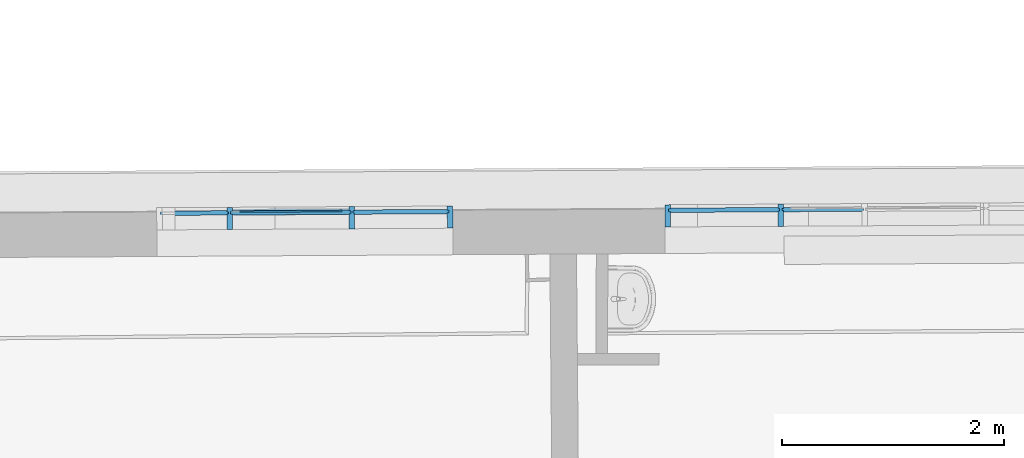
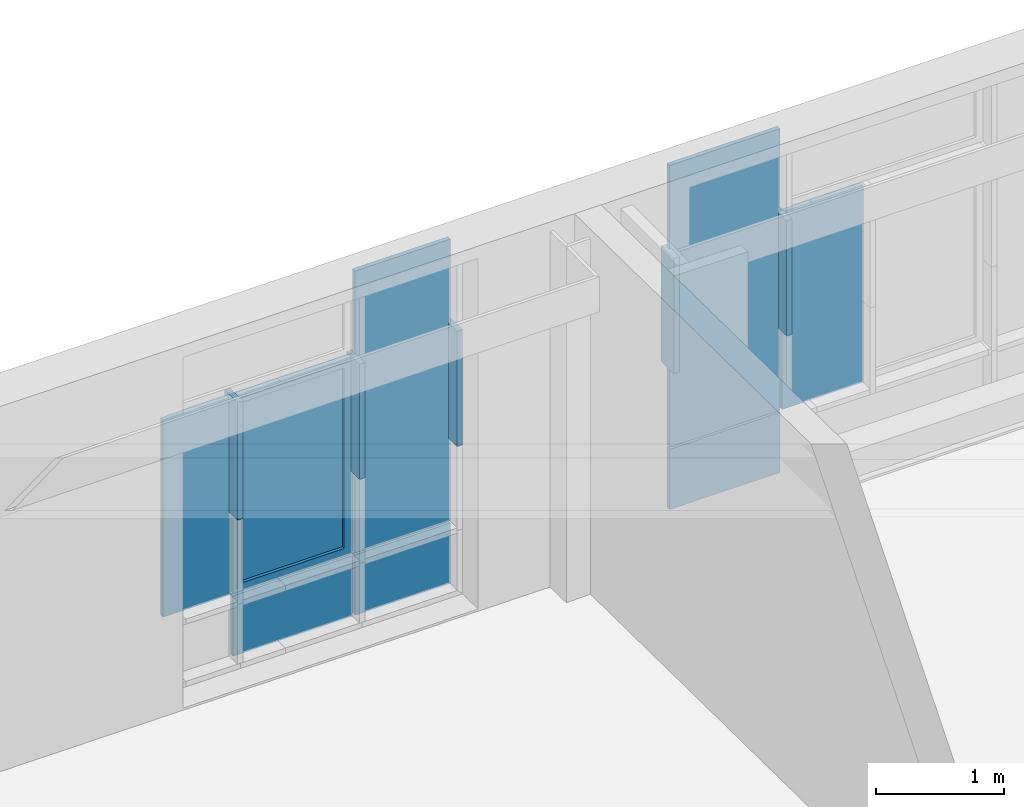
# One storey, part 102 of 158: 14 building element parts, 2 elements without a shape of their own.
"""IFC2X3 building model written with IfcOpenShell, lengths in metres."""

from ifc_helpers import new_model, entity, si_unit, converted_unit, derived_unit, money_unit, direction, frame, origin_with_axes, place, context, subcontext, project, spatial, faceted_brep, material, type_object, element, aggregate, save


model = new_model("IFC2X3")

# Units and contexts
model_context = context("Model", 3, precision=1e-05, world=origin_with_axes(), true_north=direction((0.0, 1.0)))
body_context = subcontext(model_context, "Body", "Model", "MODEL_VIEW")
ifc_project = project(units=[si_unit("LENGTHUNIT", "METRE"), si_unit("AREAUNIT", "SQUARE_METRE"), si_unit("VOLUMEUNIT", "CUBIC_METRE"), converted_unit("PLANEANGLEUNIT", "DEGREE", entity("IfcPlaneAngleMeasure", 0.0174532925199), si_unit("PLANEANGLEUNIT", "RADIAN"), dimensions=[0, 0, 0, 0, 0, 0, 0]), money_unit("EUR"), converted_unit("TIMEUNIT", "Year", entity("IfcTimeMeasure", 31556926.0), si_unit("TIMEUNIT", "SECOND"), dimensions=[0, 0, 1, 0, 0, 0, 0]), si_unit("MASSUNIT", "GRAM", prefix="KILO"), si_unit("THERMODYNAMICTEMPERATUREUNIT", "DEGREE_CELSIUS"), si_unit("LUMINOUSINTENSITYUNIT", "LUMEN"), si_unit("ENERGYUNIT", "JOULE", prefix="MEGA"), derived_unit("THERMALCONDUCTANCEUNIT", [(si_unit("POWERUNIT", "WATT"), 1), (si_unit("LENGTHUNIT", "METRE"), -1), (si_unit("THERMODYNAMICTEMPERATUREUNIT", "KELVIN"), -1)]), derived_unit("SPECIFICHEATCAPACITYUNIT", [(si_unit("ENERGYUNIT", "JOULE"), 1), (si_unit("MASSUNIT", "GRAM", prefix="KILO"), -1), (si_unit("THERMODYNAMICTEMPERATUREUNIT", "KELVIN"), -1)]), derived_unit("MASSDENSITYUNIT", [(si_unit("MASSUNIT", "GRAM", prefix="KILO"), 1), (si_unit("VOLUMEUNIT", "CUBIC_METRE"), -1)])], contexts=[model_context])

# Site, building, storey
site_placement = place(None, origin_with_axes())
site = spatial("IfcSite", under=ifc_project, at=site_placement, Name="Gelände", CompositionType="ELEMENT")
building_placement = place(site_placement, origin_with_axes())
building = spatial("IfcBuilding", under=site, at=building_placement, Name="Gebäude", CompositionType="ELEMENT")
storey_placement = place(building_placement, origin_with_axes())
storey = spatial("IfcBuildingStorey", under=building, at=storey_placement, Name="ERDGESCHOSS", CompositionType="ELEMENT", Elevation=0.0)

# Proxy, building element parts
building_element_proxy_type = type_object("IfcBuildingElementProxyType", Name="Fassadentyp", PredefinedType="NOTDEFINED")
proxy_1_placement = place(storey_placement, frame((-22.8016333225, 53.9701805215, 1.34043904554), z_axis=(0.0, 0.0, 1.0), x_axis=(1.0, 0.0, 0.0)))
proxy_1 = element("IfcBuildingElementProxy", 1, at=proxy_1_placement, inside=storey, type_object=building_element_proxy_type, Name="Fassade-002")
ifc_material_1 = material(Name="45_Glas, Normalglas")
building_element_part_1_placement = place(proxy_1_placement, origin_with_axes())
building_element_part_1 = element("IfcBuildingElementPart", 2, at=building_element_part_1_placement, material=ifc_material_1, Name="45_Glas, Normalglas", context=body_context, shape_type="Brep", body=[
    faceted_brep([(-3.15476168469, -0.038397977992, 3.31499989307), (-2.89491090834, -0.0368826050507, 3.31499989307), (-2.89514417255, 0.00311671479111, 3.31499989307), (-3.15499494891, 0.00160134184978, 3.31499989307), (-3.15476168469, -0.038397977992, 2.5200000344), (-3.15476168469, -0.038397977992, 1.41999999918), (-3.15476168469, -0.038397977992, 0.630000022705), (-2.89491090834, -0.0368826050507, 0.630000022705), (-2.1552765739, -0.0325692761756, 0.630000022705), (-2.1552765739, -0.0325692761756, 1.41999999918), (-2.1552765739, -0.0325692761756, 2.5200000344), (-2.1552765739, -0.0325692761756, 3.31499989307), (-2.15550983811, 0.00743004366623, 3.31499989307), (-2.15550983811, 0.00743004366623, 2.5200000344), (-2.15550983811, 0.00743004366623, 1.41999999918), (-2.15550983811, 0.00743004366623, 0.630000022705), (-2.89514417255, 0.00311671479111, 0.630000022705), (-3.15499494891, 0.00160134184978, 0.630000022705), (-3.15499494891, 0.00160134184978, 1.41999999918), (-3.15499494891, 0.00160134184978, 2.5200000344)], [[[0, 1, 2, 3]], [[0, 4, 5, 6, 7, 8, 9, 10, 11, 1]], [[1, 11, 12, 2]], [[3, 2, 12, 13, 14, 15, 16, 17, 18, 19]], [[4, 0, 3, 19]], [[5, 4, 19, 18]], [[6, 5, 18, 17]], [[7, 6, 17, 16]], [[8, 7, 16, 15]], [[9, 8, 15, 14]], [[10, 9, 14, 13]], [[11, 10, 13, 12]]]),
])
building_element_part_2_placement = place(proxy_1_placement, origin_with_axes())
building_element_part_2 = element("IfcBuildingElementPart", 3, at=building_element_part_2_placement, material=ifc_material_1, Name="45_Glas, Normalglas", context=body_context, shape_type="Brep", body=[
    faceted_brep([(-2.13527692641, -0.0324526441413, 2.51000002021), (-1.89492793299, -0.0310509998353, 2.51000002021), (-1.8951611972, 0.00894832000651, 2.51000002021), (-2.13551019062, 0.00754667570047, 2.51000002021), (-2.1352768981, -0.0324526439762, 1.42000001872), (-2.1352768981, -0.0324526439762, 0.630000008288), (-1.89492793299, -0.0310509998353, 0.630000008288), (-1.39989799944, -0.0281641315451, 0.630000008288), (-1.39989797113, -0.02816413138, 1.42000001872), (-1.39989797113, -0.02816413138, 2.51000002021), (-1.40013123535, 0.0118351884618, 2.51000002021), (-1.40013123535, 0.0118351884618, 1.42000001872), (-1.40013126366, 0.0118351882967, 0.630000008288), (-1.8951611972, 0.00894832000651, 0.630000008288), (-2.13551016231, 0.00754667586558, 0.630000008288), (-2.13551016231, 0.00754667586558, 1.42000001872)], [[[0, 1, 2, 3]], [[0, 4, 5, 6, 7, 8, 9, 1]], [[1, 9, 10, 2]], [[3, 2, 10, 11, 12, 13, 14, 15]], [[4, 0, 3, 15]], [[5, 4, 15, 14]], [[6, 5, 14, 13]], [[7, 6, 13, 12]], [[8, 7, 12, 11]], [[9, 8, 11, 10]]]),
])
building_element_part_3_placement = place(proxy_1_placement, origin_with_axes())
building_element_part_3 = element("IfcBuildingElementPart", 4, at=building_element_part_3_placement, material=ifc_material_1, Name="45_Glas, Normalglas", context=body_context, shape_type="Brep", body=[
    faceted_brep([(-3.15476167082, -0.0383979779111, 0.610000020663), (-2.89491092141, -0.0368826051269, 0.610000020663), (-2.89514418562, 0.00311671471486, 0.610000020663), (-3.15499493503, 0.00160134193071, 0.610000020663), (-3.15476167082, -0.0383979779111, 0.0349999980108), (-2.89491092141, -0.0368826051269, 0.0349999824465), (-2.15527657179, -0.0325692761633, 0.0349999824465), (-2.15527657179, -0.0325692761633, 0.610000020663), (-2.155509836, 0.00743004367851, 0.610000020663), (-2.155509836, 0.00743004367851, 0.0349999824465), (-2.89514418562, 0.00311671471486, 0.0349999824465), (-3.15499493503, 0.00160134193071, 0.0349999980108)], [[[0, 1, 2, 3]], [[0, 4, 5, 6, 7, 1]], [[1, 7, 8, 2]], [[3, 2, 8, 9, 10, 11]], [[4, 0, 3, 11]], [[5, 4, 11, 10]], [[6, 5, 10, 9]], [[7, 6, 9, 8]]]),
])
ifc_material_2 = material(Name="53_Metall, Aluminium")
building_element_part_4_placement = place(proxy_1_placement, origin_with_axes())
building_element_part_4 = element("IfcBuildingElementPart", 5, at=building_element_part_4_placement, material=ifc_material_2, Name="53_Metall, Aluminium", context=body_context, shape_type="Brep", body=[
    faceted_brep([(-3.15481999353, -0.0283981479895, 2.52000001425), (-3.15493662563, -0.00839848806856, 2.52000001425), (-3.13993688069, -0.00831101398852, 2.52000001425), (-3.14017014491, 0.0316883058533, 2.52000001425), (-3.19016929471, 0.0313967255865, 2.52000001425), (-3.18900297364, -0.168599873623, 2.52000001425), (-3.13900382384, -0.168308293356, 2.52000001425), (-3.13982024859, -0.0283106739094, 2.52000001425), (-3.15481999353, -0.0283981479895, 1.42000001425), (-3.15493662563, -0.00839848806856, 1.42000001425), (-3.13993688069, -0.00831101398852, 1.42000001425), (-3.14017014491, 0.0316883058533, 1.42000001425), (-3.19016929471, 0.0313967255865, 1.42000001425), (-3.18900297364, -0.168599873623, 1.42000001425), (-3.13900382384, -0.168308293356, 1.42000001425), (-3.13982024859, -0.0283106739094, 1.42000001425)], [[[0, 1, 2, 3, 4, 5, 6, 7]], [[1, 0, 8, 9]], [[10, 2, 1, 9]], [[2, 10, 11, 3]], [[12, 4, 3, 11]], [[13, 5, 4, 12]], [[14, 6, 5, 13]], [[15, 7, 6, 14]], [[0, 7, 15, 8]], [[8, 15, 14, 13, 12, 11, 10, 9]]]),
])
building_element_part_5_placement = place(proxy_1_placement, origin_with_axes())
building_element_part_5 = element("IfcBuildingElementPart", 6, at=building_element_part_5_placement, material=ifc_material_2, Name="53_Metall, Aluminium", context=body_context, shape_type="Brep", body=[
    faceted_brep([(-2.1553348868, -0.0225694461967, 2.52000001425), (-2.17033463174, -0.0226569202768, 2.52000001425), (-2.16951820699, -0.162654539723, 2.52000001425), (-2.11951905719, -0.162362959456, 2.52000001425), (-2.12033548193, -0.02236534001, 2.52000001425), (-2.13533522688, -0.02245281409, 2.52000001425), (-2.13545185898, -0.00245315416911, 2.52000001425), (-2.12045211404, -0.00236568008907, 2.52000001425), (-2.12068537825, 0.0376336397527, 2.52000001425), (-2.17068452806, 0.0373420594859, 2.52000001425), (-2.17045126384, -0.00265726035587, 2.52000001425), (-2.1554515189, -0.00256978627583, 2.52000001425), (-2.1553348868, -0.0225694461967, 1.42000001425), (-2.17033463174, -0.0226569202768, 1.42000001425), (-2.16951820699, -0.162654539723, 1.42000001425), (-2.11951905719, -0.162362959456, 1.42000001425), (-2.12033548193, -0.02236534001, 1.42000001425), (-2.13533522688, -0.02245281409, 1.42000001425), (-2.13545185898, -0.00245315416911, 1.42000001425), (-2.12045211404, -0.00236568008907, 1.42000001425), (-2.12068537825, 0.0376336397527, 1.42000001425), (-2.17068452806, 0.0373420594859, 1.42000001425), (-2.17045126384, -0.00265726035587, 1.42000001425), (-2.1554515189, -0.00256978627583, 1.42000001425)], [[[0, 1, 2, 3, 4, 5, 6, 7, 8, 9, 10, 11]], [[1, 0, 12, 13]], [[1, 13, 14, 2]], [[3, 2, 14, 15]], [[4, 3, 15, 16]], [[4, 16, 17, 5]], [[5, 17, 18, 6]], [[7, 6, 18, 19]], [[19, 20, 8, 7]], [[9, 8, 20, 21]], [[22, 10, 9, 21]], [[11, 10, 22, 23]], [[0, 11, 23, 12]], [[23, 22, 21, 20, 19, 18, 17, 16, 15, 14, 13, 12]]]),
])
aggregate(proxy_1, [building_element_part_1, building_element_part_2, building_element_part_3, building_element_part_4, building_element_part_5])

proxy_2_placement = place(storey_placement, frame((-29.8344261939, 53.9291673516, 1.34043902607), z_axis=(0.0, 0.0, 1.0), x_axis=(1.0, 0.0, 0.0)))
proxy_2 = element("IfcBuildingElementProxy", 7, at=proxy_2_placement, inside=storey, type_object=building_element_proxy_type, Name="Fassade-002")
building_element_part_6_placement = place(proxy_2_placement, origin_with_axes())
building_element_part_6 = element("IfcBuildingElementPart", 8, at=building_element_part_6_placement, material=ifc_material_1, Name="45_Glas, Normalglas", context=body_context, shape_type="Brep", body=[
    faceted_brep([(1.03187040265, -0.0139827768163, 0.610000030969), (1.89615868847, -0.00894250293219, 0.610000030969), (1.89592542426, 0.0310568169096, 0.610000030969), (1.03163713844, 0.0260165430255, 0.610000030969), (1.03187040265, -0.0139827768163, 0.0349999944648), (1.89615868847, -0.00894250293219, 0.0349999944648), (1.89592542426, 0.0310568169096, 0.0349999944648), (1.03163713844, 0.0260165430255, 0.0349999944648)], [[[0, 1, 2, 3]], [[0, 4, 5, 1]], [[1, 5, 6, 2]], [[3, 2, 6, 7]], [[4, 0, 3, 7]], [[5, 4, 7, 6]]]),
])
building_element_part_7_placement = place(proxy_2_placement, origin_with_axes())
building_element_part_7 = element("IfcBuildingElementPart", 9, at=building_element_part_7_placement, material=ifc_material_1, Name="45_Glas, Normalglas", context=body_context, shape_type="Brep", body=[
    faceted_brep([(1.03187039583, -0.013982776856, 3.31499995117), (1.89615869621, -0.00894250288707, 3.31499995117), (1.89592543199, 0.0310568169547, 3.31499995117), (1.03163713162, 0.0260165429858, 3.31499995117), (1.03187039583, -0.013982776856, 2.52000004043), (1.03187039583, -0.013982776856, 1.42000003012), (1.03187039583, -0.013982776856, 0.630000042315), (1.89615869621, -0.00894250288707, 0.630000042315), (1.89615869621, -0.00894250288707, 1.42000003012), (1.89615869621, -0.00894250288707, 2.52000004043), (1.89592543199, 0.0310568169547, 2.52000004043), (1.89592543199, 0.0310568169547, 1.42000003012), (1.89592543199, 0.0310568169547, 0.630000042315), (1.03163713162, 0.0260165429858, 0.630000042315), (1.03163713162, 0.0260165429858, 1.42000003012), (1.03163713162, 0.0260165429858, 2.52000004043)], [[[0, 1, 2, 3]], [[0, 4, 5, 6, 7, 8, 9, 1]], [[1, 9, 10, 2]], [[3, 2, 10, 11, 12, 13, 14, 15]], [[4, 0, 3, 15]], [[5, 4, 15, 14]], [[6, 5, 14, 13]], [[7, 6, 13, 12]], [[8, 7, 12, 11]], [[9, 8, 11, 10]]]),
])
building_element_part_8_placement = place(proxy_2_placement, origin_with_axes())
building_element_part_8 = element("IfcBuildingElementPart", 10, at=building_element_part_8_placement, material=ifc_material_1, Name="45_Glas, Normalglas", context=body_context, shape_type="Brep", body=[
    faceted_brep([(-0.702538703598, -0.0240973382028, 2.51000003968), (-0.571863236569, -0.0233352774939, 2.51000003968), (-0.572096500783, 0.0166640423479, 2.51000003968), (-0.702771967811, 0.015901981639, 2.51000003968), (-0.702538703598, -0.0240973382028, 1.42000003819), (-0.702538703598, -0.0240973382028, 0.630000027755), (-0.571863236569, -0.0233352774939, 0.630000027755), (-0.0901315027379, -0.0205259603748, 0.630000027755), (-0.0901315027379, -0.0205259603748, 1.42000003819), (-0.0901315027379, -0.0205259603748, 2.51000003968), (-0.0903647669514, 0.019473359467, 2.51000003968), (-0.0903647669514, 0.019473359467, 1.42000003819), (-0.0903647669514, 0.019473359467, 0.630000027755), (-0.572096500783, 0.0166640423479, 0.630000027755), (-0.702771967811, 0.015901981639, 0.630000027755), (-0.702771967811, 0.015901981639, 1.42000003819)], [[[0, 1, 2, 3]], [[0, 4, 5, 6, 7, 8, 9, 1]], [[1, 9, 10, 2]], [[3, 2, 10, 11, 12, 13, 14, 15]], [[4, 0, 3, 15]], [[5, 4, 15, 14]], [[6, 5, 14, 13]], [[7, 6, 13, 12]], [[8, 7, 12, 11]], [[9, 8, 11, 10]]]),
])
building_element_part_9_placement = place(proxy_2_placement, origin_with_axes())
building_element_part_9 = element("IfcBuildingElementPart", 11, at=building_element_part_9_placement, material=ifc_material_1, Name="45_Glas, Normalglas", context=body_context, shape_type="Brep", body=[
    faceted_brep([(-0.0701318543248, -0.0204093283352, 0.610000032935), (0.328121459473, -0.0180868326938, 0.610000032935), (0.32788819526, 0.0219124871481, 0.610000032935), (-0.0703651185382, 0.0195899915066, 0.610000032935), (-0.0701318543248, -0.0204093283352, 0.0349999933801), (0.328121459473, -0.0180868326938, 0.0349999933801), (1.01187073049, -0.0140994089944, 0.0349999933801), (1.01187074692, -0.0140994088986, 0.610000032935), (1.0116374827, 0.0258999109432, 0.610000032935), (1.01163746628, 0.0258999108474, 0.0349999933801), (0.32788819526, 0.0219124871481, 0.0349999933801), (-0.0703651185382, 0.0195899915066, 0.0349999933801)], [[[0, 1, 2, 3]], [[0, 4, 5, 6, 7, 1]], [[1, 7, 8, 2]], [[3, 2, 8, 9, 10, 11]], [[4, 0, 3, 11]], [[5, 4, 11, 10]], [[6, 5, 10, 9]], [[7, 6, 9, 8]]]),
])
building_element_part_10_placement = place(proxy_2_placement, origin_with_axes())
building_element_part_10 = element("IfcBuildingElementPart", 12, at=building_element_part_10_placement, material=ifc_material_2, Name="53_Metall, Aluminium", context=body_context, shape_type="Brep", body=[
    faceted_brep([(0.996579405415, 0.0358122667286, 0.645000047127), (-0.0554236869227, 0.029677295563, 0.645000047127), (-0.0554528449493, 0.0346772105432, 0.645000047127), (0.996550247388, 0.0408121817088, 0.645000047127), (0.951580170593, 0.0355498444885, 0.690000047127), (-0.0104244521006, 0.0299397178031, 0.690000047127), (-0.0104536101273, 0.0349396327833, 0.690000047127), (0.951551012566, 0.0405497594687, 0.690000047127)], [[[0, 1, 2, 3]], [[0, 4, 5, 1]], [[1, 5, 6, 2]], [[3, 2, 6, 7]], [[4, 0, 3, 7]], [[5, 4, 7, 6]]]),
    faceted_brep([(-0.0554236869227, 0.029677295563, 0.645000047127), (-0.0554236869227, 0.029677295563, 2.4950000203), (-0.0554528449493, 0.0346772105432, 2.4950000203), (-0.0554528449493, 0.0346772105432, 0.645000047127), (-0.0104244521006, 0.0299397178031, 0.690000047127), (-0.0104244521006, 0.0299397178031, 2.4500000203), (-0.0104536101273, 0.0349396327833, 2.4500000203), (-0.0104536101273, 0.0349396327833, 0.690000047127)], [[[0, 1, 2, 3]], [[0, 4, 5, 1]], [[1, 5, 6, 2]], [[3, 2, 6, 7]], [[4, 0, 3, 7]], [[5, 4, 7, 6]]]),
    faceted_brep([(0.996579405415, 0.0358122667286, 2.4950000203), (0.951580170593, 0.0355498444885, 2.4500000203), (0.951551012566, 0.0405497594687, 2.4500000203), (0.996550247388, 0.0408121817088, 2.4950000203), (-0.0554236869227, 0.029677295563, 2.4950000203), (-0.0104244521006, 0.0299397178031, 2.4500000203), (-0.0104536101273, 0.0349396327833, 2.4500000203), (-0.0554528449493, 0.0346772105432, 2.4950000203)], [[[0, 1, 2, 3]], [[0, 4, 5, 1]], [[1, 5, 6, 2]], [[3, 2, 6, 7]], [[4, 0, 3, 7]], [[5, 4, 7, 6]]]),
    faceted_brep([(0.996579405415, 0.0358122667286, 0.645000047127), (0.951580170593, 0.0355498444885, 0.690000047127), (0.951551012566, 0.0405497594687, 0.690000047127), (0.996550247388, 0.0408121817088, 0.645000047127), (0.996579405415, 0.0358122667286, 2.4950000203), (0.951580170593, 0.0355498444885, 2.4500000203), (0.951551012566, 0.0405497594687, 2.4500000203), (0.996550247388, 0.0408121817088, 2.4950000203)], [[[0, 1, 2, 3]], [[0, 4, 5, 1]], [[1, 5, 6, 2]], [[3, 2, 6, 7]], [[4, 0, 3, 7]], [[5, 4, 7, 6]]]),
    faceted_brep([(0.996870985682, -0.0141868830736, 0.645000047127), (-0.0551321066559, -0.0203218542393, 0.645000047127), (-0.0554236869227, 0.029677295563, 0.645000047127), (0.996579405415, 0.0358122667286, 0.645000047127), (0.976871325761, -0.0143035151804, 0.665000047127), (-0.035132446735, -0.0202052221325, 0.665000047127), (-0.0354240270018, 0.0297939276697, 0.665000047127), (0.976579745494, 0.0356956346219, 0.665000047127)], [[[0, 1, 2, 3]], [[0, 4, 5, 1]], [[1, 5, 6, 2]], [[3, 2, 6, 7]], [[4, 0, 3, 7]], [[5, 4, 7, 6]]]),
    faceted_brep([(-0.0551321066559, -0.0203218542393, 0.645000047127), (-0.0551321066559, -0.0203218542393, 2.4950000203), (-0.0554236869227, 0.029677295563, 2.4950000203), (-0.0554236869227, 0.029677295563, 0.645000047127), (-0.035132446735, -0.0202052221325, 0.665000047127), (-0.035132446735, -0.0202052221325, 2.4750000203), (-0.0354240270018, 0.0297939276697, 2.4750000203), (-0.0354240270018, 0.0297939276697, 0.665000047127)], [[[0, 1, 2, 3]], [[0, 4, 5, 1]], [[1, 5, 6, 2]], [[3, 2, 6, 7]], [[4, 0, 3, 7]], [[5, 4, 7, 6]]]),
    faceted_brep([(0.996870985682, -0.0141868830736, 2.4950000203), (0.976871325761, -0.0143035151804, 2.4750000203), (0.976579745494, 0.0356956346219, 2.4750000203), (0.996579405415, 0.0358122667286, 2.4950000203), (-0.0551321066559, -0.0203218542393, 2.4950000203), (-0.035132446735, -0.0202052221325, 2.4750000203), (-0.0354240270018, 0.0297939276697, 2.4750000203), (-0.0554236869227, 0.029677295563, 2.4950000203)], [[[0, 1, 2, 3]], [[0, 4, 5, 1]], [[1, 5, 6, 2]], [[3, 2, 6, 7]], [[4, 0, 3, 7]], [[5, 4, 7, 6]]]),
    faceted_brep([(0.996870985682, -0.0141868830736, 0.645000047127), (0.976871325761, -0.0143035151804, 0.665000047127), (0.976579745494, 0.0356956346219, 0.665000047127), (0.996579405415, 0.0358122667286, 0.645000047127), (0.996870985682, -0.0141868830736, 2.4950000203), (0.976871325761, -0.0143035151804, 2.4750000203), (0.976579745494, 0.0356956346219, 2.4750000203), (0.996579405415, 0.0358122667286, 2.4950000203)], [[[0, 1, 2, 3]], [[0, 4, 5, 1]], [[1, 5, 6, 2]], [[3, 2, 6, 7]], [[4, 0, 3, 7]], [[5, 4, 7, 6]]]),
    faceted_brep([(1.01187074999, -0.0140994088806, 0.630000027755), (-0.070131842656, -0.0204093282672, 0.630000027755), (-0.0703651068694, 0.0195899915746, 0.630000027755), (1.01163748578, 0.0258999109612, 0.630000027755), (0.996870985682, -0.0141868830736, 0.645000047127), (-0.0551321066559, -0.0203218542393, 0.645000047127), (-0.0553653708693, 0.0196774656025, 0.645000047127), (0.996637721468, 0.0258124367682, 0.645000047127)], [[[0, 1, 2, 3]], [[0, 4, 5, 1]], [[1, 5, 6, 2]], [[3, 2, 6, 7]], [[4, 0, 3, 7]], [[5, 4, 7, 6]]]),
    faceted_brep([(-0.070131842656, -0.0204093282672, 0.630000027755), (-0.070131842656, -0.0204093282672, 2.51000003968), (-0.0703651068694, 0.0195899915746, 2.51000003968), (-0.0703651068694, 0.0195899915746, 0.630000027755), (-0.0551321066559, -0.0203218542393, 0.645000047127), (-0.0551321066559, -0.0203218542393, 2.4950000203), (-0.0553653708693, 0.0196774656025, 2.4950000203), (-0.0553653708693, 0.0196774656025, 0.645000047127)], [[[0, 1, 2, 3]], [[0, 4, 5, 1]], [[1, 5, 6, 2]], [[3, 2, 6, 7]], [[4, 0, 3, 7]], [[5, 4, 7, 6]]]),
    faceted_brep([(-0.070131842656, -0.0204093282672, 2.51000003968), (1.01187074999, -0.0140994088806, 2.51000003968), (1.01163748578, 0.0258999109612, 2.51000003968), (-0.0703651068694, 0.0195899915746, 2.51000003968), (-0.0551321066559, -0.0203218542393, 2.4950000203), (0.996870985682, -0.0141868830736, 2.4950000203), (0.996637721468, 0.0258124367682, 2.4950000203), (-0.0553653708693, 0.0196774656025, 2.4950000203)], [[[0, 1, 2, 3]], [[0, 4, 5, 1]], [[1, 5, 6, 2]], [[3, 2, 6, 7]], [[4, 0, 3, 7]], [[5, 4, 7, 6]]]),
    faceted_brep([(1.01187074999, -0.0140994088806, 2.51000003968), (1.01187074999, -0.0140994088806, 0.630000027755), (1.01163748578, 0.0258999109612, 0.630000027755), (1.01163748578, 0.0258999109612, 2.51000003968), (0.996870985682, -0.0141868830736, 2.4950000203), (0.996870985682, -0.0141868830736, 0.645000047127), (0.996637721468, 0.0258124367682, 0.645000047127), (0.996637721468, 0.0258124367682, 2.4950000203)], [[[0, 1, 2, 3]], [[0, 4, 5, 1]], [[1, 5, 6, 2]], [[3, 2, 6, 7]], [[4, 0, 3, 7]], [[5, 4, 7, 6]]]),
    faceted_brep([(0.931580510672, 0.0354332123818, 0.710000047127), (0.931901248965, -0.0195658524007, 0.710000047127), (0.931901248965, -0.0195658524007, 2.4300000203), (0.931580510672, 0.0354332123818, 2.4300000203), (0.976579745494, 0.0356956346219, 0.665000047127), (0.976900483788, -0.0193034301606, 0.665000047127), (0.976900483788, -0.0193034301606, 2.4750000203), (0.976579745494, 0.0356956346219, 2.4750000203)], [[[0, 1, 2, 3]], [[4, 5, 1, 0]], [[1, 5, 6, 2]], [[3, 2, 6, 7]], [[0, 3, 7, 4]], [[7, 6, 5, 4]]]),
    faceted_brep([(-0.0354240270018, 0.0297939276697, 0.665000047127), (-0.0351032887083, -0.0252051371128, 0.665000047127), (-0.0351032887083, -0.0252051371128, 2.4750000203), (-0.0354240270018, 0.0297939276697, 2.4750000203), (0.00957520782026, 0.0300563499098, 0.710000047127), (0.00989594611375, -0.0249427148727, 0.710000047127), (0.00989594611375, -0.0249427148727, 2.4300000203), (0.00957520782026, 0.0300563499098, 2.4300000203)], [[[0, 1, 2, 3]], [[4, 5, 1, 0]], [[1, 5, 6, 2]], [[3, 2, 6, 7]], [[0, 3, 7, 4]], [[7, 6, 5, 4]]]),
    faceted_brep([(-0.0354240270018, 0.0297939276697, 0.665000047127), (-0.0351032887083, -0.0252051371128, 0.665000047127), (0.00989594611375, -0.0249427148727, 0.710000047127), (0.00957520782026, 0.0300563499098, 0.710000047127), (0.976579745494, 0.0356956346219, 0.665000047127), (0.976900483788, -0.0193034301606, 0.665000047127), (0.931901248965, -0.0195658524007, 0.710000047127), (0.931580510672, 0.0354332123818, 0.710000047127)], [[[0, 1, 2, 3]], [[4, 5, 1, 0]], [[1, 5, 6, 2]], [[3, 2, 6, 7]], [[0, 3, 7, 4]], [[7, 6, 5, 4]]]),
    faceted_brep([(0.976579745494, 0.0356956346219, 2.4750000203), (0.976900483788, -0.0193034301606, 2.4750000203), (0.931901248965, -0.0195658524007, 2.4300000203), (0.931580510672, 0.0354332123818, 2.4300000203), (-0.0354240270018, 0.0297939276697, 2.4750000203), (-0.0351032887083, -0.0252051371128, 2.4750000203), (0.00989594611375, -0.0249427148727, 2.4300000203), (0.00957520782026, 0.0300563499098, 2.4300000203)], [[[0, 1, 2, 3]], [[4, 5, 1, 0]], [[1, 5, 6, 2]], [[3, 2, 6, 7]], [[0, 3, 7, 4]], [[7, 6, 5, 4]]]),
])
building_element_part_11_placement = place(proxy_2_placement, origin_with_axes())
building_element_part_11 = element("IfcBuildingElementPart", 13, at=building_element_part_11_placement, material=ifc_material_1, Name="45_Glas, Normalglas", context=body_context, shape_type="Brep", body=[
    faceted_brep([(0.931638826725, 0.0254333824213, 0.710000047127), (0.931732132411, 0.0094336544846, 0.710000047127), (0.009726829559, 0.00405679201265, 0.710000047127), (0.00963352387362, 0.0200565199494, 0.710000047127), (0.931638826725, 0.0254333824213, 2.4300000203), (0.931732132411, 0.0094336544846, 2.4300000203), (0.009726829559, 0.00405679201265, 2.4300000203), (0.00963352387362, 0.0200565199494, 2.4300000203)], [[[0, 1, 2, 3]], [[4, 5, 1, 0]], [[1, 5, 6, 2]], [[3, 2, 6, 7]], [[0, 3, 7, 4]], [[7, 6, 5, 4]]]),
])
building_element_part_12_placement = place(proxy_2_placement, origin_with_axes())
building_element_part_12 = element("IfcBuildingElementPart", 14, at=building_element_part_12_placement, material=ifc_material_2, Name="53_Metall, Aluminium", context=body_context, shape_type="Brep", body=[
    faceted_brep([(-0.0901898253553, -0.0105261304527, 2.54500003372), (-0.105189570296, -0.0106136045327, 2.54500003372), (-0.104373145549, -0.150611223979, 2.54500003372), (-0.0543739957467, -0.150319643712, 2.54500003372), (-0.0551904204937, -0.0103220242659, 2.54500003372), (-0.0701901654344, -0.0104094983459, 2.54500003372), (-0.0703067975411, 0.00959016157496, 2.54500003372), (-0.0553070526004, 0.009677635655, 2.54500003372), (-0.0555403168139, 0.0496769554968, 2.54500003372), (-0.105539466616, 0.04938537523, 2.54500003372), (-0.105306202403, 0.0093860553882, 2.54500003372), (-0.090306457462, 0.00947352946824, 2.54500003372), (-0.0901898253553, -0.0105261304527, 1.42000003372), (-0.105189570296, -0.0106136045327, 1.42000003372), (-0.104373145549, -0.150611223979, 1.42000003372), (-0.0543739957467, -0.150319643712, 1.42000003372), (-0.0551904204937, -0.0103220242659, 1.42000003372), (-0.0701901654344, -0.0104094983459, 1.42000003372), (-0.0703067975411, 0.00959016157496, 1.42000003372), (-0.0553070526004, 0.009677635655, 1.42000003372), (-0.0555403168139, 0.0496769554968, 1.42000003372), (-0.105539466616, 0.04938537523, 1.42000003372), (-0.105306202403, 0.0093860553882, 1.42000003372), (-0.090306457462, 0.00947352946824, 1.42000003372)], [[[0, 1, 2, 3, 4, 5, 6, 7, 8, 9, 10, 11]], [[1, 0, 12, 13]], [[1, 13, 14, 2]], [[3, 2, 14, 15]], [[4, 3, 15, 16]], [[4, 16, 17, 5]], [[5, 17, 18, 6]], [[7, 6, 18, 19]], [[19, 20, 8, 7]], [[9, 8, 20, 21]], [[22, 10, 9, 21]], [[11, 10, 22, 23]], [[0, 11, 23, 12]], [[23, 22, 21, 20, 19, 18, 17, 16, 15, 14, 13, 12]]]),
])
building_element_part_13_placement = place(proxy_2_placement, origin_with_axes())
building_element_part_13 = element("IfcBuildingElementPart", 15, at=building_element_part_13_placement, material=ifc_material_2, Name="53_Metall, Aluminium", context=body_context, shape_type="Brep", body=[
    faceted_brep([(1.89610036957, 0.00105732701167, 2.52000003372), (1.88110062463, 0.000969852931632, 2.52000003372), (1.88191704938, -0.139027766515, 2.52000003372), (1.93191619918, -0.138736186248, 2.52000003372), (1.93074987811, 0.0612604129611, 2.52000003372), (1.88075072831, 0.0609688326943, 2.52000003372), (1.88098399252, 0.0209695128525, 2.52000003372), (1.89598373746, 0.0210569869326, 2.52000003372), (1.89610036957, 0.00105732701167, 1.42000003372), (1.88110062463, 0.000969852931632, 1.42000003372), (1.88191704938, -0.139027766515, 1.42000003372), (1.93191619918, -0.138736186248, 1.42000003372), (1.93074987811, 0.0612604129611, 1.42000003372), (1.88075072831, 0.0609688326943, 1.42000003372), (1.88098399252, 0.0209695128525, 1.42000003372), (1.89598373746, 0.0210569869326, 1.42000003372)], [[[0, 1, 2, 3, 4, 5, 6, 7]], [[0, 8, 9, 1]], [[9, 10, 2, 1]], [[10, 11, 3, 2]], [[11, 12, 4, 3]], [[12, 13, 5, 4]], [[6, 5, 13, 14]], [[14, 15, 7, 6]], [[7, 15, 8, 0]], [[8, 15, 14, 13, 12, 11, 10, 9]]]),
])
building_element_part_14_placement = place(proxy_2_placement, origin_with_axes())
building_element_part_14 = element("IfcBuildingElementPart", 16, at=building_element_part_14_placement, material=ifc_material_2, Name="53_Metall, Aluminium", context=body_context, shape_type="Brep", body=[
    faceted_brep([(1.01181242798, -0.00409957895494, 2.52000003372), (0.996812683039, -0.00418705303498, 2.52000003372), (0.997629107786, -0.144184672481, 2.52000003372), (1.04762825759, -0.143893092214, 2.52000003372), (1.04681183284, -0.00389547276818, 2.52000003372), (1.0318120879, -0.00398294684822, 2.52000003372), (1.03169545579, 0.0160167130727, 2.52000003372), (1.04669520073, 0.0161041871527, 2.52000003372), (1.04646193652, 0.0561035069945, 2.52000003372), (0.996462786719, 0.0558119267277, 2.52000003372), (0.996696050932, 0.0158126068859, 2.52000003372), (1.01169579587, 0.015900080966, 2.52000003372), (1.01181242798, -0.00409957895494, 1.42000003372), (0.996812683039, -0.00418705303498, 1.42000003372), (0.997629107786, -0.144184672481, 1.42000003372), (1.04762825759, -0.143893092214, 1.42000003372), (1.04681183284, -0.00389547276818, 1.42000003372), (1.0318120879, -0.00398294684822, 1.42000003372), (1.03169545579, 0.0160167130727, 1.42000003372), (1.04669520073, 0.0161041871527, 1.42000003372), (1.04646193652, 0.0561035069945, 1.42000003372), (0.996462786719, 0.0558119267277, 1.42000003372), (0.996696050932, 0.0158126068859, 1.42000003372), (1.01169579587, 0.015900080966, 1.42000003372)], [[[0, 1, 2, 3, 4, 5, 6, 7, 8, 9, 10, 11]], [[1, 0, 12, 13]], [[1, 13, 14, 2]], [[3, 2, 14, 15]], [[4, 3, 15, 16]], [[4, 16, 17, 5]], [[5, 17, 18, 6]], [[7, 6, 18, 19]], [[19, 20, 8, 7]], [[9, 8, 20, 21]], [[22, 10, 9, 21]], [[11, 10, 22, 23]], [[0, 11, 23, 12]], [[23, 22, 21, 20, 19, 18, 17, 16, 15, 14, 13, 12]]]),
])
aggregate(proxy_2, [building_element_part_6, building_element_part_7, building_element_part_8, building_element_part_9, building_element_part_10, building_element_part_11, building_element_part_12, building_element_part_13, building_element_part_14])

save(model, "model.ifc")
